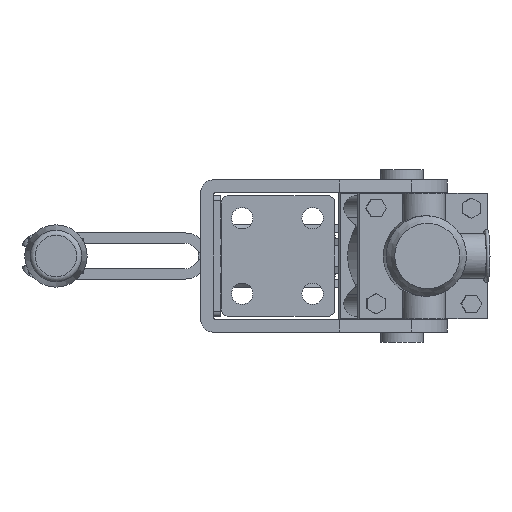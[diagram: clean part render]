
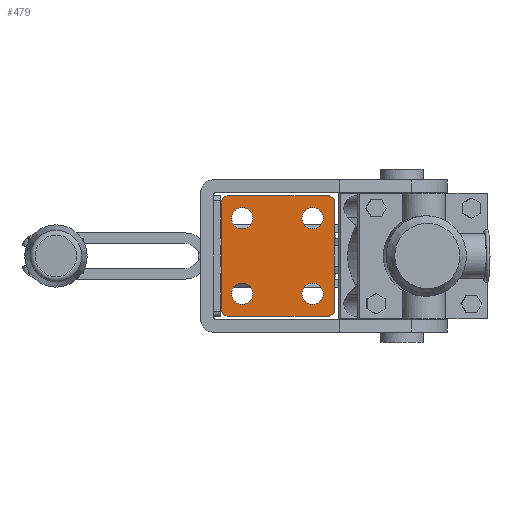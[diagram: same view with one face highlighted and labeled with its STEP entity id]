
A CAD part, front view. The second image highlights one B-rep face of the part: STEP entity #479.
In plain terms, the highlighted planar face has unit normal (0, -1, 0).
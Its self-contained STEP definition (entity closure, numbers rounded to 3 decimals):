
#479 = ADVANCED_FACE( '', ( #957, #958, #959, #960, #961 ), #962, .F. );
#957 = FACE_BOUND( '', #1934, .T. );
#958 = FACE_BOUND( '', #1935, .T. );
#959 = FACE_BOUND( '', #1936, .T. );
#960 = FACE_BOUND( '', #1937, .T. );
#961 = FACE_OUTER_BOUND( '', #1938, .T. );
#962 = PLANE( '', #1939 );
#1934 = EDGE_LOOP( '', ( #3091 ) );
#1935 = EDGE_LOOP( '', ( #3092 ) );
#1936 = EDGE_LOOP( '', ( #3093 ) );
#1937 = EDGE_LOOP( '', ( #3094 ) );
#1938 = EDGE_LOOP( '', ( #3095, #3096, #3097, #3098, #3099, #3100, #3101, #3102 ) );
#1939 = AXIS2_PLACEMENT_3D( '', #3103, #3104, #3105 );
#3091 = ORIENTED_EDGE( '', *, *, #6163, .T. );
#3092 = ORIENTED_EDGE( '', *, *, #6161, .T. );
#3093 = ORIENTED_EDGE( '', *, *, #6159, .T. );
#3094 = ORIENTED_EDGE( '', *, *, #6157, .T. );
#3095 = ORIENTED_EDGE( '', *, *, #6111, .T. );
#3096 = ORIENTED_EDGE( '', *, *, #6122, .F. );
#3097 = ORIENTED_EDGE( '', *, *, #6212, .F. );
#3098 = ORIENTED_EDGE( '', *, *, #6129, .F. );
#3099 = ORIENTED_EDGE( '', *, *, #6107, .F. );
#3100 = ORIENTED_EDGE( '', *, *, #6131, .F. );
#3101 = ORIENTED_EDGE( '', *, *, #6134, .F. );
#3102 = ORIENTED_EDGE( '', *, *, #6213, .F. );
#3103 = CARTESIAN_POINT( '', ( 0., 0., 24. ) );
#3104 = DIRECTION( '', ( 0., 1., 0. ) );
#3105 = DIRECTION( '', ( 0., 0., 1. ) );
#6107 = EDGE_CURVE( '', #7136, #7137, #7138, .T. );
#6111 = EDGE_CURVE( '', #7144, #7145, #7146, .T. );
#6122 = EDGE_CURVE( '', #7165, #7145, #7166, .T. );
#6129 = EDGE_CURVE( '', #7137, #7177, #7178, .T. );
#6131 = EDGE_CURVE( '', #7180, #7136, #7181, .T. );
#6134 = EDGE_CURVE( '', #7185, #7180, #7186, .T. );
#6157 = EDGE_CURVE( '', #7223, #7223, #7224, .T. );
#6159 = EDGE_CURVE( '', #7227, #7227, #7228, .T. );
#6161 = EDGE_CURVE( '', #7231, #7231, #7232, .T. );
#6163 = EDGE_CURVE( '', #7235, #7235, #7236, .T. );
#6212 = EDGE_CURVE( '', #7177, #7165, #7323, .T. );
#6213 = EDGE_CURVE( '', #7144, #7185, #7324, .T. );
#7136 = VERTEX_POINT( '', #8861 );
#7137 = VERTEX_POINT( '', #8862 );
#7138 = LINE( '', #8863, #8864 );
#7144 = VERTEX_POINT( '', #8873 );
#7145 = VERTEX_POINT( '', #8874 );
#7146 = LINE( '', #8875, #8876 );
#7165 = VERTEX_POINT( '', #8901 );
#7166 = CIRCLE( '', #8902, 3. );
#7177 = VERTEX_POINT( '', #8915 );
#7178 = CIRCLE( '', #8916, 3. );
#7180 = VERTEX_POINT( '', #8919 );
#7181 = CIRCLE( '', #8920, 3. );
#7185 = VERTEX_POINT( '', #8925 );
#7186 = LINE( '', #8926, #8927 );
#7223 = VERTEX_POINT( '', #8980 );
#7224 = CIRCLE( '', #8981, 4.25 );
#7227 = VERTEX_POINT( '', #8984 );
#7228 = CIRCLE( '', #8985, 4.25 );
#7231 = VERTEX_POINT( '', #8988 );
#7232 = CIRCLE( '', #8989, 4.25 );
#7235 = VERTEX_POINT( '', #8992 );
#7236 = CIRCLE( '', #8993, 4.25 );
#7323 = LINE( '', #9113, #9114 );
#7324 = CIRCLE( '', #9115, 3. );
#8861 = CARTESIAN_POINT( '', ( 6.1, 0., 24. ) );
#8862 = CARTESIAN_POINT( '', ( 45.3, 0., 24. ) );
#8863 = CARTESIAN_POINT( '', ( 0., 0., 24. ) );
#8864 = VECTOR( '', #12137, 1000. );
#8873 = CARTESIAN_POINT( '', ( 6.1, 0., -24. ) );
#8874 = CARTESIAN_POINT( '', ( 45.3, 0., -24. ) );
#8875 = CARTESIAN_POINT( '', ( 0., 0., -24. ) );
#8876 = VECTOR( '', #12141, 1000. );
#8901 = CARTESIAN_POINT( '', ( 48., 0., -22.308 ) );
#8902 = AXIS2_PLACEMENT_3D( '', #12160, #12161, #12162 );
#8915 = CARTESIAN_POINT( '', ( 48., 0., 22.308 ) );
#8916 = AXIS2_PLACEMENT_3D( '', #12177, #12178, #12179 );
#8919 = CARTESIAN_POINT( '', ( 3.1, 0., 21. ) );
#8920 = AXIS2_PLACEMENT_3D( '', #12181, #12182, #12183 );
#8925 = CARTESIAN_POINT( '', ( 3.1, 0., -21. ) );
#8926 = CARTESIAN_POINT( '', ( 3.1, 0., -21. ) );
#8927 = VECTOR( '', #12188, 1000. );
#8980 = CARTESIAN_POINT( '', ( 15.75, 0., 15. ) );
#8981 = AXIS2_PLACEMENT_3D( '', #12223, #12224, #12225 );
#8984 = CARTESIAN_POINT( '', ( 43.75, 0., 15. ) );
#8985 = AXIS2_PLACEMENT_3D( '', #12229, #12230, #12231 );
#8988 = CARTESIAN_POINT( '', ( 15.75, 0., -15. ) );
#8989 = AXIS2_PLACEMENT_3D( '', #12235, #12236, #12237 );
#8992 = CARTESIAN_POINT( '', ( 43.75, 0., -15. ) );
#8993 = AXIS2_PLACEMENT_3D( '', #12241, #12242, #12243 );
#9113 = CARTESIAN_POINT( '', ( 48., 0., 24. ) );
#9114 = VECTOR( '', #12322, 1000. );
#9115 = AXIS2_PLACEMENT_3D( '', #12323, #12324, #12325 );
#12137 = DIRECTION( '', ( 1., 0., 0. ) );
#12141 = DIRECTION( '', ( 1., 0., 0. ) );
#12160 = CARTESIAN_POINT( '', ( 45.3, 0., -21. ) );
#12161 = DIRECTION( '', ( 0., 1., 0. ) );
#12162 = DIRECTION( '', ( 1., 0., 0. ) );
#12177 = CARTESIAN_POINT( '', ( 45.3, 0., 21. ) );
#12178 = DIRECTION( '', ( 0., 1., 0. ) );
#12179 = DIRECTION( '', ( 1., 0., 0. ) );
#12181 = CARTESIAN_POINT( '', ( 6.1, 0., 21. ) );
#12182 = DIRECTION( '', ( 0., 1., 0. ) );
#12183 = DIRECTION( '', ( 1., 0., 0. ) );
#12188 = DIRECTION( '', ( 0., 0., 1. ) );
#12223 = CARTESIAN_POINT( '', ( 11.5, 0., 15. ) );
#12224 = DIRECTION( '', ( 0., 1., 0. ) );
#12225 = DIRECTION( '', ( 1., 0., 0. ) );
#12229 = CARTESIAN_POINT( '', ( 39.5, 0., 15. ) );
#12230 = DIRECTION( '', ( 0., 1., 0. ) );
#12231 = DIRECTION( '', ( 1., 0., 0. ) );
#12235 = CARTESIAN_POINT( '', ( 11.5, 0., -15. ) );
#12236 = DIRECTION( '', ( 0., 1., 0. ) );
#12237 = DIRECTION( '', ( 1., 0., 0. ) );
#12241 = CARTESIAN_POINT( '', ( 39.5, 0., -15. ) );
#12242 = DIRECTION( '', ( 0., 1., 0. ) );
#12243 = DIRECTION( '', ( 1., 0., 0. ) );
#12322 = DIRECTION( '', ( 0., 0., -1. ) );
#12323 = CARTESIAN_POINT( '', ( 6.1, 0., -21. ) );
#12324 = DIRECTION( '', ( 0., 1., 0. ) );
#12325 = DIRECTION( '', ( 1., 0., 0. ) );
